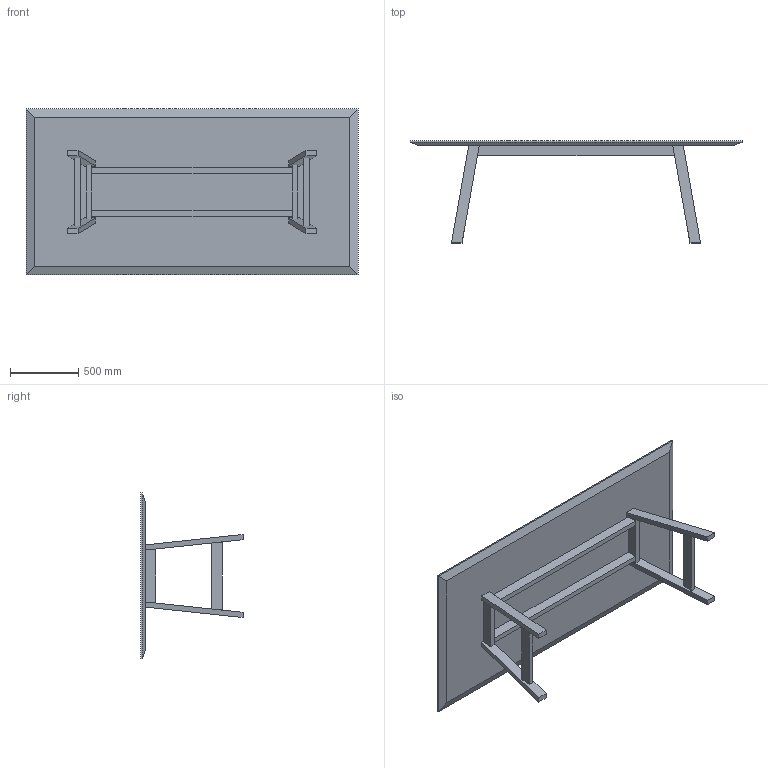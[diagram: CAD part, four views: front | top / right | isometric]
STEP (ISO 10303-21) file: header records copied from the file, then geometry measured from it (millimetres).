
FILE_DESCRIPTION(/* description */ ('','CAx-IF Rec.Pracs.---Representation and Presentation of Product Manufacturing Information (PMI)---4.0---2014-10-13'),/* implementation_level */ '2;1');
FILE_NAME(/* name */ 'TABLE_GRADIENT 4.stp',/* time_stamp */ '2024-12-07T16:35:11-05:00',/* author */ ('mbowman'),/* organization */ (''),/* preprocessor_version */ 'ST-DEVELOPER v19.2',/* originating_system */ 'Autodesk Inventor 2023',/* authorisation */ '');
FILE_SCHEMA (('AP242_MANAGED_MODEL_BASED_3D_ENGINEERING_MIM_LF { 1 0 10303 442 1 1 4 }'));
Length unit declared in the file: inch
Products named in the file (2): GRADIENT^TABLE 4A_CANTED LEGS-VERTICAL STRETCHERS; GRADIENT^TABLE 4A_CANTED LEGS-VERTICAL STRETCHERS_1
Assembly tree (1 placements, depth 2):
  GRADIENT^TABLE 4A_CANTED LEGS-VERTICAL STRETCHERS
    GRADIENT^TABLE 4A_CANTED LEGS-VERTICAL STRETCHERS_1
Bounding box: 2438.4 x 749.3 x 1219.2 mm (x, y, z)
Volume: 111721203 mm3; surface area: 7848719.6 mm2
Topology: 11 solids, 11 shells, 70 faces, 140 edges, 92 vertices
Faces by surface type: plane 70
Entity records: 2122 total; most frequent: CARTESIAN_POINT 417, DIRECTION 294, ORIENTED_EDGE 280, LINE 140, VECTOR 140, EDGE_CURVE 140, VERTEX_POINT 92, STYLED_ITEM 77
